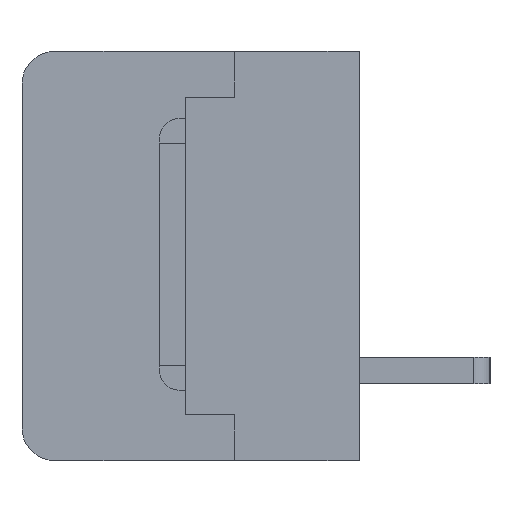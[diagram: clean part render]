
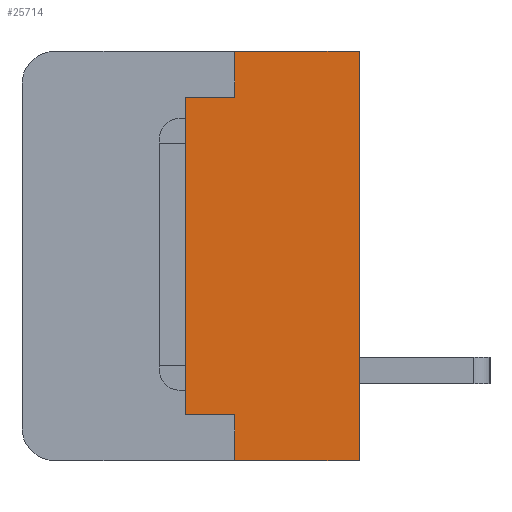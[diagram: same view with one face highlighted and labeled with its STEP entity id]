
A CAD part, left-side view. The second image highlights one B-rep face of the part: STEP entity #25714.
In plain terms, the highlighted planar face has unit normal (-1, 0, 0).
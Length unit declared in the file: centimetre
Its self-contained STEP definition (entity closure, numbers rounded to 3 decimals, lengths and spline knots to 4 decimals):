
#1550=PLANE('',#42295);
#2270=VECTOR('',#27029,1.);
#2373=VECTOR('',#27176,1.);
#2411=VECTOR('',#27217,1.);
#2448=VECTOR('',#27255,1.);
#3987=VECTOR('',#30792,1.);
#3988=VECTOR('',#30793,1.);
#3989=VECTOR('',#30794,1.);
#3990=VECTOR('',#30795,1.);
#4966=LINE('',#33457,#2270);
#5069=LINE('',#33682,#2373);
#5107=LINE('',#33760,#2411);
#5144=LINE('',#33833,#2448);
#6683=LINE('',#39180,#3987);
#6684=LINE('',#39182,#3988);
#6685=LINE('',#39183,#3989);
#6686=LINE('',#39185,#3990);
#7598=VERTEX_POINT('',#33456);
#7599=VERTEX_POINT('',#33458);
#7648=VERTEX_POINT('',#33598);
#7689=VERTEX_POINT('',#33681);
#7727=VERTEX_POINT('',#33759);
#7763=VERTEX_POINT('',#33834);
#9248=VERTEX_POINT('',#39181);
#9249=VERTEX_POINT('',#39184);
#10883=EDGE_CURVE('',#7598,#7599,#4966,.T.);
#10995=EDGE_CURVE('',#7689,#7648,#5069,.T.);
#11034=EDGE_CURVE('',#7648,#7727,#5107,.T.);
#11071=EDGE_CURVE('',#7727,#7763,#5144,.T.);
#13380=EDGE_CURVE('',#9248,#7689,#6683,.T.);
#13381=EDGE_CURVE('',#7599,#9248,#6684,.T.);
#13382=EDGE_CURVE('',#9249,#7598,#6685,.T.);
#13383=EDGE_CURVE('',#7763,#9249,#6686,.T.);
#20425=ORIENTED_EDGE('',*,*,#13380,.F.);
#20426=ORIENTED_EDGE('',*,*,#13381,.F.);
#20427=ORIENTED_EDGE('',*,*,#10883,.F.);
#20428=ORIENTED_EDGE('',*,*,#13382,.F.);
#20429=ORIENTED_EDGE('',*,*,#13383,.F.);
#20430=ORIENTED_EDGE('',*,*,#11071,.F.);
#20431=ORIENTED_EDGE('',*,*,#11034,.F.);
#20432=ORIENTED_EDGE('',*,*,#10995,.F.);
#22755=EDGE_LOOP('',(#20425,#20426,#20427,#20428,#20429,#20430,#20431,#20432));
#24289=FACE_BOUND('',#22755,.T.);
#25714=ADVANCED_FACE('',(#24289),#1550,.F.);
#27029=DIRECTION('',(0.,0.,1.));
#27176=DIRECTION('',(0.,-1.,0.));
#27217=DIRECTION('',(0.,0.,-1.));
#27255=DIRECTION('',(0.,1.,0.));
#30791=DIRECTION('',(1.,0.,0.));
#30792=DIRECTION('',(0.,0.,1.));
#30793=DIRECTION('',(0.,-1.,0.));
#30794=DIRECTION('',(0.,1.,0.));
#30795=DIRECTION('',(0.,0.,1.));
#33456=CARTESIAN_POINT('',(-1.382,0.53,-0.485));
#33457=CARTESIAN_POINT('',(-1.382,0.53,-0.485));
#33458=CARTESIAN_POINT('',(-1.382,0.53,0.485));
#33598=CARTESIAN_POINT('',(-1.382,0.,0.625));
#33681=CARTESIAN_POINT('',(-1.382,0.38,0.625));
#33682=CARTESIAN_POINT('',(-1.382,0.38,0.625));
#33759=CARTESIAN_POINT('',(-1.382,0.,-0.625));
#33760=CARTESIAN_POINT('',(-1.382,0.,0.625));
#33833=CARTESIAN_POINT('',(-1.382,0.,-0.625));
#33834=CARTESIAN_POINT('',(-1.382,0.38,-0.625));
#39179=CARTESIAN_POINT('',(-1.382,0.2532,0.));
#39180=CARTESIAN_POINT('',(-1.382,0.38,0.485));
#39181=CARTESIAN_POINT('',(-1.382,0.38,0.485));
#39182=CARTESIAN_POINT('',(-1.382,0.53,0.485));
#39183=CARTESIAN_POINT('',(-1.382,0.38,-0.485));
#39184=CARTESIAN_POINT('',(-1.382,0.38,-0.485));
#39185=CARTESIAN_POINT('',(-1.382,0.38,-0.625));
#42295=AXIS2_PLACEMENT_3D('',#39179,#30791,$);
